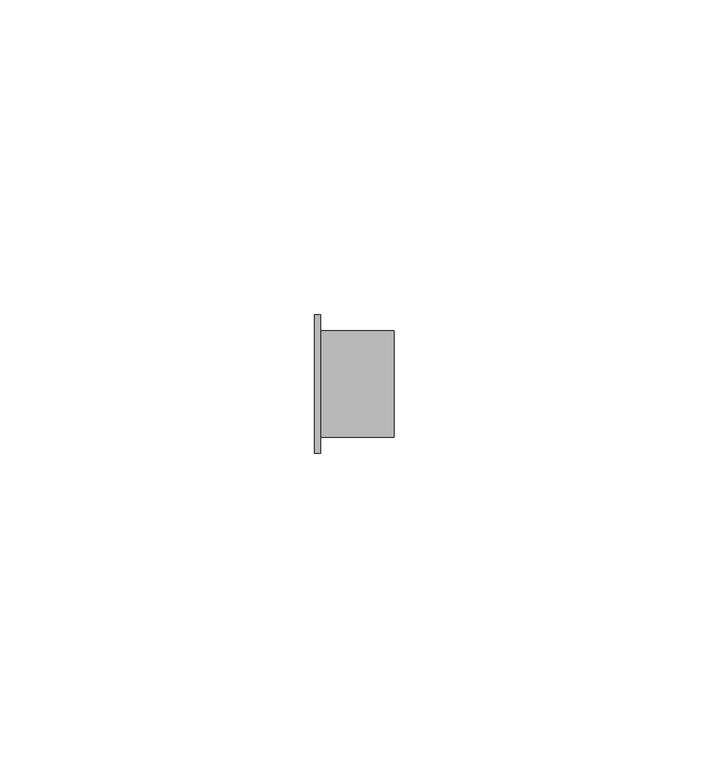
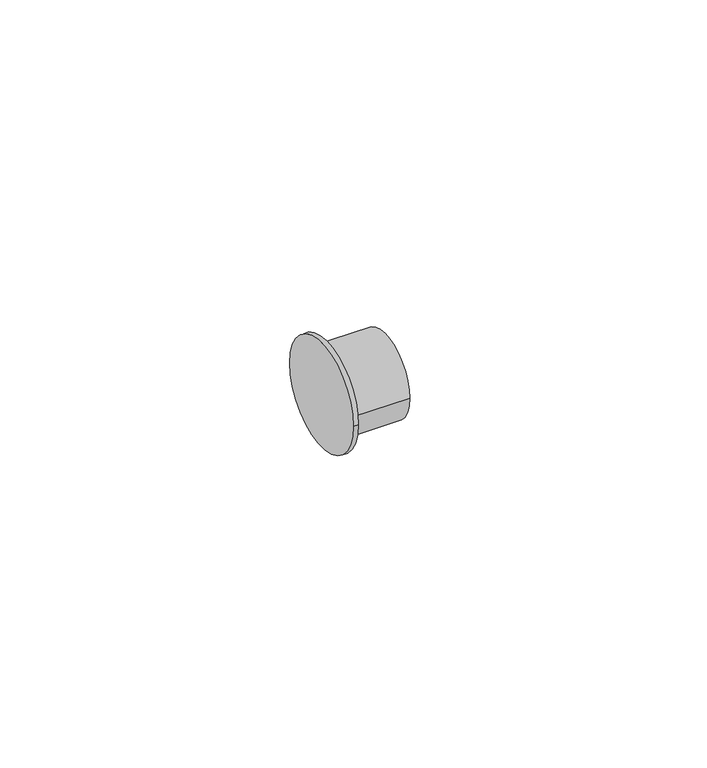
"""IFC4 building model written with IfcOpenShell, lengths in millimetres: pipe fitting geometry, Bucha de redução reta - Soldada - CU : Padrão."""

from ifc_helpers import new_model, si_unit, frame, origin, place, context, project, spatial, circle_curve, source, transform, mapped, element, save
from ifc_brep_helpers import plane_surface, cylinder_surface, advanced_brep


def pipe_fitting_a5ff4f7d(model_context):
    return source(origin(), model_context, "Body", "AdvancedBrep", [
        advanced_brep(
        [(0.0, -11.01, 0.0), (0.0, 11.01, 0.0), (1.0, -11.01, 0.0), (1.0, 11.01, 0.0), (1.0, -8.4937, 0.0), (1.0, 8.4937, 0.0), (12.6589, -8.4937, 0.0), (12.6589, 8.4937, 0.0)],
        [
            (0, 1, circle_curve(frame((0.0, 0.0, 0.0), z_axis=(-1.0, 0.0, 0.0), x_axis=(0.0, 1.0, 0.0)), 11.01)),
            (1, 0, circle_curve(frame((0.0, 0.0, 0.0), z_axis=(-1.0, 0.0, 0.0), x_axis=(0.0, 1.0, 0.0)), 11.01)),
            (2, 3, circle_curve(frame((1.0, 0.0, 0.0), z_axis=(1.0, 0.0, 0.0), x_axis=(0.0, 1.0, 0.0)), 11.01)),
            (3, 2, circle_curve(frame((1.0, 0.0, 0.0), z_axis=(1.0, 0.0, 0.0), x_axis=(0.0, 1.0, 0.0)), 11.01)),
            (4, 5, circle_curve(frame((1.0, 0.0, 0.0), z_axis=(-1.0, 0.0, 0.0), x_axis=(0.0, 1.0, 0.0)), 8.4937)),
            (5, 4, circle_curve(frame((1.0, 0.0, 0.0), z_axis=(-1.0, 0.0, 0.0), x_axis=(0.0, 1.0, 0.0)), 8.4937)),
            (0, 2),
            (3, 1),
            (6, 7, circle_curve(frame((12.6589, 0.0, 0.0), z_axis=(1.0, 0.0, 0.0), x_axis=(0.0, 1.0, 0.0)), 8.4937)),
            (7, 6, circle_curve(frame((12.6589, 0.0, 0.0), z_axis=(1.0, 0.0, 0.0), x_axis=(0.0, 1.0, 0.0)), 8.4937)),
            (7, 5),
            (4, 6),
        ],
        [
            plane_surface(frame((0.0, 0.0, 0.0), z_axis=(-1.0, 0.0, 0.0), x_axis=(0.0, 0.0, 1.0))),
            plane_surface(frame((1.0, 0.0, 0.0), z_axis=(1.0, 0.0, 0.0), x_axis=(0.0, 0.0, 1.0))),
            cylinder_surface(frame((0.0, 0.0, 0.0), z_axis=(-1.0, 0.0, 0.0), x_axis=(0.0, 1.0, 0.0)), 11.01),
            plane_surface(frame((12.6589, 0.0, 0.0), z_axis=(1.0, 0.0, 0.0), x_axis=(0.0, 0.0, 1.0))),
            cylinder_surface(frame((1.0, 0.0, 0.0), z_axis=(-1.0, 0.0, 0.0), x_axis=(0.0, 1.0, 0.0)), 8.4937),
        ],
        [
            (0, [[1, 2]]),
            (1, [[3, 4], [5, 6]]),
            (2, [[-1, 7, -4, 8]]),
            (2, [[-2, -8, -3, -7]]),
            (3, [[9, 10]]),
            (4, [[-10, 11, -5, 12]]),
            (4, [[-9, -12, -6, -11]]),
        ],
    ),
    ])


if __name__ == "__main__":
    model = new_model("IFC4")
    model_context = context("Model", 3, world=origin())
    ifc_project = project(units=[si_unit("LENGTHUNIT", "METRE", prefix="MILLI")], contexts=[model_context])
    site = spatial("IfcSite", under=ifc_project)
    building = spatial("IfcBuilding", under=site)
    placement = place(None, origin())
    pipe_fitting_shape = pipe_fitting_a5ff4f7d(model_context)
    element("IfcPipeFitting", 1, ObjectType="Bucha de redução reta - Soldada - CU : Padrão", at=placement, inside=building, context=model_context, shape_type="MappedRepresentation", body=[
        mapped(pipe_fitting_shape, transform((0.0, 0.0, 0.0), x_axis=(1.0, 0.0, 0.0), y_axis=(0.0, 1.0, 0.0), z_axis=(0.0, 0.0, 1.0))),
    ])
    save(model, "model.ifc")
